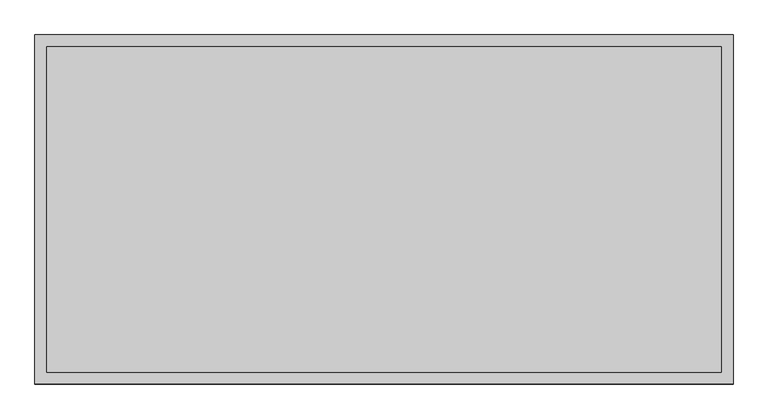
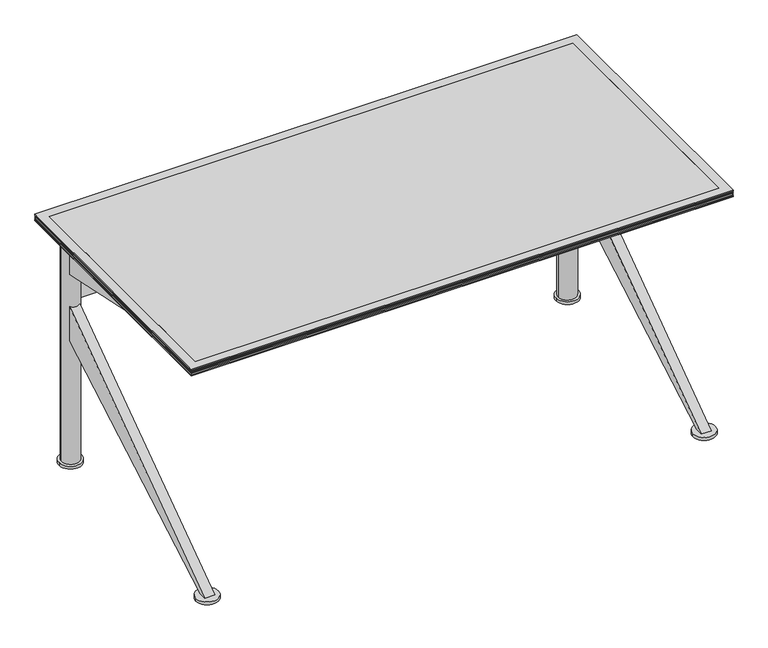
"""IFC4 building model written with IfcOpenShell, lengths in millimetres: furniture geometry, Coalesse_AM_Table_Conference_Ballet_Rectangular_KBase : Folding - 60L x 30W."""

from ifc_helpers import new_model, si_unit, point, frame, frame_2d, origin, origin_with_axes, place, context, project, spatial, polyline, circle_curve, trimmed, segment, composite_curve, outline, extrude, faceted_brep, source, transform, mapped, element, save
from ifc_brep_helpers import plane_surface, cylinder_surface, advanced_brep


def furniture_0b930614(model_context):
    return source(origin(), model_context, "Body", "SolidModel", [
        extrude(outline(composite_curve([segment(trimmed(circle_curve(frame_2d((-699.4092495, -349.25)), 25.4), [point((-724.8092495, -349.25))], [point((-674.0092495, -349.25))], False, "CARTESIAN"), True, "CONTINUOUS"), segment(trimmed(circle_curve(frame_2d((-699.4092495, -349.25)), 25.4), [point((-674.0092495, -349.25))], [point((-724.8092495, -349.25))], False, "CARTESIAN"), True, "CONTINUOUS")], self_intersect=False)), origin_with_axes(), (0.0, 0.0, 1.0), 4.2936144),
        extrude(outline(composite_curve([segment(trimmed(circle_curve(frame_2d((698.6624629, -349.25)), 25.4), [point((673.2624629, -349.25))], [point((724.0624629, -349.25))], False, "CARTESIAN"), True, "CONTINUOUS"), segment(trimmed(circle_curve(frame_2d((698.6624629, -349.25)), 25.4), [point((724.0624629, -349.25))], [point((673.2624629, -349.25))], False, "CARTESIAN"), True, "CONTINUOUS")], self_intersect=False)), origin_with_axes(), (0.0, 0.0, 1.0), 4.2936144),
        extrude(outline(composite_curve([segment(trimmed(circle_curve(frame_2d((698.6154995, 316.815286)), 25.4), [point((724.0154995, 316.815286))], [point((673.2154995, 316.815286))], False, "CARTESIAN"), True, "CONTINUOUS"), segment(trimmed(circle_curve(frame_2d((698.6154995, 316.815286)), 25.4), [point((673.2154995, 316.815286))], [point((724.0154995, 316.815286))], False, "CARTESIAN"), True, "CONTINUOUS")], self_intersect=False)), origin_with_axes(), (0.0, 0.0, 1.0), 4.2936144),
        extrude(outline(composite_curve([segment(trimmed(circle_curve(frame_2d((-699.4562129, 316.815286)), 25.4), [point((-674.0562129, 316.815286))], [point((-724.8562129, 316.815286))], False, "CARTESIAN"), True, "CONTINUOUS"), segment(trimmed(circle_curve(frame_2d((-699.4562129, 316.815286)), 25.4), [point((-724.8562129, 316.815286))], [point((-674.0562129, 316.815286))], False, "CARTESIAN"), True, "CONTINUOUS")], self_intersect=False)), origin_with_axes(), (0.0, 0.0, 1.0), 4.2936144),
        extrude(outline(composite_curve([segment(trimmed(circle_curve(frame_2d((698.6154995, 316.815286)), 31.75), [point((730.3654995, 316.815286))], [point((666.8654995, 316.815286))], False, "CARTESIAN"), True, "CONTINUOUS"), segment(trimmed(circle_curve(frame_2d((698.6154995, 316.815286)), 31.75), [point((666.8654995, 316.815286))], [point((730.3654995, 316.815286))], False, "CARTESIAN"), True, "CONTINUOUS")], self_intersect=False)), frame((0.0, 0.0, 4.2936144), z_axis=(0.0, 0.0, 1.0), x_axis=(1.0, 0.0, 0.0)), (0.0, 0.0, 1.0), 8.4063856),
        extrude(outline(composite_curve([segment(trimmed(circle_curve(frame_2d((-699.4562129, 316.815286)), 31.75), [point((-667.7062129, 316.815286))], [point((-731.2062129, 316.815286))], False, "CARTESIAN"), True, "CONTINUOUS"), segment(trimmed(circle_curve(frame_2d((-699.4562129, 316.815286)), 31.75), [point((-731.2062129, 316.815286))], [point((-667.7062129, 316.815286))], False, "CARTESIAN"), True, "CONTINUOUS")], self_intersect=False)), frame((0.0, 0.0, 4.2936144), z_axis=(0.0, 0.0, 1.0), x_axis=(1.0, 0.0, 0.0)), (0.0, 0.0, 1.0), 8.4063856),
        extrude(outline(polyline([(296.4656271, 577.7388634), (-269.874901, 698.5000242), (-238.124901, 698.5000242), (296.4656271, 641.3500242), (296.4656271, 577.7388634)])), frame((-712.8007845, 0.0, 0.0), z_axis=(1.0, 0.0, 0.0), x_axis=(0.0, 1.0, 0.0)), (0.0, 0.0, 1.0), 28.5877899),
        extrude(outline(polyline([(296.4656271, 381.0), (-338.1375951, 12.7), (-360.3624013, 12.7), (296.4656271, 482.7111245), (296.4656271, 381.0)])), frame((-712.8007845, 0.0, 0.0), z_axis=(1.0, 0.0, 0.0), x_axis=(0.0, 1.0, 0.0)), (0.0, 0.0, 1.0), 28.5877899),
        extrude(outline(polyline([(296.4656271, 577.7388634), (-269.874901, 698.5000242), (-238.124901, 698.5000242), (296.4656271, 641.3500242), (296.4656271, 577.7388634)])), frame((684.2121992, 0.0, 0.0), z_axis=(1.0, 0.0, 0.0), x_axis=(0.0, 1.0, 0.0)), (0.0, 0.0, 1.0), 28.575),
        extrude(outline(polyline([(296.4656271, 381.0), (-338.1375951, 12.7), (-360.3624013, 12.7), (296.4656271, 482.7111245), (296.4656271, 381.0)])), frame((684.2121992, 0.0, 0.0), z_axis=(1.0, 0.0, 0.0), x_axis=(0.0, 1.0, 0.0)), (0.0, 0.0, 1.0), 28.575),
        advanced_brep(
        [(676.5033169, 304.8000021, 568.3250121), (-676.5033169, 304.8000021, 568.3250121), (-676.5033169, 304.8000021, 492.1250121), (676.5033169, 304.8000021, 492.1250121), (-673.1003634, 317.5, 492.1250121), (-676.5032635, 330.1999052, 492.1250121), (676.5032635, 330.1999052, 492.1250121), (673.1003634, 317.5, 492.1250121), (-676.5032635, 330.1999052, 568.3250121), (676.5032635, 330.1999052, 568.3250121), (673.1003634, 317.5, 568.3250121), (-673.1003634, 317.5, 568.3250121), (-723.9003633, 317.5, 698.5000242), (-673.1003634, 317.5, 698.5000242), (673.1003634, 317.5, 698.5000242), (723.9003633, 317.5, 698.5000242), (-723.9003633, 317.5, 12.7), (-673.1003634, 317.5, 12.7), (673.1003634, 317.5, 12.7), (723.9003633, 317.5, 12.7)],
        [
            (0, 1),
            (1, 2),
            (2, 3),
            (3, 0),
            (2, 4, circle_curve(frame((-698.5003633, 317.5, 492.1250121), z_axis=(0.0, 0.0, 1.0), x_axis=(1.0, 0.0, 0.0)), 25.3999999)),
            (4, 5, circle_curve(frame((-698.5003633, 317.5, 492.1250121), z_axis=(0.0, 0.0, 1.0), x_axis=(1.0, 0.0, 0.0)), 25.3999999)),
            (5, 6),
            (6, 7, circle_curve(frame((698.5003633, 317.5, 492.1250121), z_axis=(0.0, 0.0, 1.0), x_axis=(1.0, 0.0, 0.0)), 25.3999999)),
            (7, 3, circle_curve(frame((698.5003633, 317.5, 492.1250121), z_axis=(0.0, 0.0, 1.0), x_axis=(1.0, 0.0, 0.0)), 25.3999999)),
            (5, 8),
            (8, 9),
            (9, 6),
            (0, 10, circle_curve(frame((698.5003633, 317.5, 568.3250121), z_axis=(0.0, 0.0, -1.0), x_axis=(1.0, 0.0, 0.0)), 25.3999999)),
            (10, 9, circle_curve(frame((698.5003633, 317.5, 568.3250121), z_axis=(0.0, 0.0, -1.0), x_axis=(1.0, 0.0, 0.0)), 25.3999999)),
            (8, 11, circle_curve(frame((-698.5003633, 317.5, 568.3250121), z_axis=(0.0, 0.0, -1.0), x_axis=(1.0, 0.0, 0.0)), 25.3999999)),
            (11, 1, circle_curve(frame((-698.5003633, 317.5, 568.3250121), z_axis=(0.0, 0.0, -1.0), x_axis=(1.0, 0.0, 0.0)), 25.3999999)),
            (12, 13, circle_curve(frame((-698.5003633, 317.5, 698.5000242), z_axis=(0.0, 0.0, 1.0), x_axis=(1.0, 0.0, 0.0)), 25.3999999)),
            (13, 12, circle_curve(frame((-698.5003633, 317.5, 698.5000242), z_axis=(0.0, 0.0, 1.0), x_axis=(1.0, 0.0, 0.0)), 25.3999999)),
            (14, 15, circle_curve(frame((698.5003633, 317.5, 698.5000242), z_axis=(0.0, 0.0, 1.0), x_axis=(1.0, 0.0, 0.0)), 25.3999999)),
            (15, 14, circle_curve(frame((698.5003633, 317.5, 698.5000242), z_axis=(0.0, 0.0, 1.0), x_axis=(1.0, 0.0, 0.0)), 25.3999999)),
            (16, 17, circle_curve(frame((-698.5003633, 317.5, 12.7), z_axis=(0.0, 0.0, -1.0), x_axis=(1.0, 0.0, 0.0)), 25.3999999)),
            (17, 16, circle_curve(frame((-698.5003633, 317.5, 12.7), z_axis=(0.0, 0.0, -1.0), x_axis=(1.0, 0.0, 0.0)), 25.3999999)),
            (18, 19, circle_curve(frame((698.5003633, 317.5, 12.7), z_axis=(0.0, 0.0, -1.0), x_axis=(1.0, 0.0, 0.0)), 25.3999999)),
            (19, 18, circle_curve(frame((698.5003633, 317.5, 12.7), z_axis=(0.0, 0.0, -1.0), x_axis=(1.0, 0.0, 0.0)), 25.3999999)),
            (12, 16),
            (17, 4),
            (11, 13),
            (14, 10),
            (7, 18),
            (19, 15),
        ],
        [
            plane_surface(frame((684.2121992, 304.8000021, 568.3250121), z_axis=(0.0, -1.0, 0.0), x_axis=(-1.0, 0.0, 0.0))),
            plane_surface(frame((684.2121992, 304.8000021, 492.1250121), z_axis=(0.0, 0.0, -1.0), x_axis=(-1.0, 0.0, 0.0))),
            plane_surface(frame((684.2121992, 330.1999052, 492.1250121), z_axis=(0.0, 1.0, 0.0), x_axis=(-1.0, 0.0, 0.0))),
            plane_surface(frame((684.2121992, 330.1999052, 568.3250121), z_axis=(0.0, 0.0, 1.0), x_axis=(-1.0, 0.0, 0.0))),
            plane_surface(frame((-673.1003634, 317.5, 698.5000242), z_axis=(0.0, 0.0, 1.0), x_axis=(0.0, 1.0, 0.0))),
            plane_surface(frame((-673.1003634, 317.5, 12.7), z_axis=(0.0, 0.0, -1.0), x_axis=(0.0, -1.0, 0.0))),
            cylinder_surface(frame((-698.5003633, 317.5, 12.7), z_axis=(0.0, 0.0, 1.0), x_axis=(1.0, 0.0, 0.0)), 25.3999999),
            cylinder_surface(frame((698.5003633, 317.5, 0.0), z_axis=(0.0, 0.0, 1.0), x_axis=(1.0, 0.0, 0.0)), 25.3999999),
        ],
        [
            (0, [[1, 2, 3, 4]]),
            (1, [[-3, 5, 6, 7, 8, 9]]),
            (2, [[-7, 10, 11, 12]]),
            (3, [[-1, 13, 14, -11, 15, 16]]),
            (4, [[17, 18]]),
            (4, [[19, 20]]),
            (5, [[21, 22]]),
            (5, [[23, 24]]),
            (6, [[-17, 25, -22, 26, -5, -2, -16, 27]]),
            (6, [[-18, -27, -15, -10, -6, -26, -21, -25]]),
            (7, [[-19, 28, -13, -4, -9, 29, -24, 30]]),
            (7, [[-20, -30, -23, -29, -8, -12, -14, -28]]),
        ],
    ),
        extrude(outline(composite_curve([segment(trimmed(circle_curve(frame_2d((-699.4092495, -349.25)), 31.75), [point((-731.1592495, -349.25))], [point((-667.6592495, -349.25))], False, "CARTESIAN"), True, "CONTINUOUS"), segment(trimmed(circle_curve(frame_2d((-699.4092495, -349.25)), 31.75), [point((-667.6592495, -349.25))], [point((-731.1592495, -349.25))], False, "CARTESIAN"), True, "CONTINUOUS")], self_intersect=False)), frame((0.0, 0.0, 4.2936144), z_axis=(0.0, 0.0, 1.0), x_axis=(1.0, 0.0, 0.0)), (0.0, 0.0, 1.0), 8.4063856),
        extrude(outline(composite_curve([segment(trimmed(circle_curve(frame_2d((698.6624629, -349.25)), 31.75), [point((666.9124629, -349.25))], [point((730.4124629, -349.25))], False, "CARTESIAN"), True, "CONTINUOUS"), segment(trimmed(circle_curve(frame_2d((698.6624629, -349.25)), 31.75), [point((730.4124629, -349.25))], [point((666.9124629, -349.25))], False, "CARTESIAN"), True, "CONTINUOUS")], self_intersect=False)), frame((0.0, 0.0, 4.2936144), z_axis=(0.0, 0.0, 1.0), x_axis=(1.0, 0.0, 0.0)), (0.0, 0.0, 1.0), 8.4063856),
        faceted_brep([(-762.0003633, 381.0, 704.85), (-736.6003876, 355.6000242, 698.5000242), (-736.6003876, -355.5999516, 698.5000242), (-762.0003633, -380.9999273, 704.85), (-762.0003633, 381.0, 708.0250242), (-762.0003633, -380.9999273, 708.0250242), (-758.8253755, 377.8250121, 709.6125), (-758.8253755, -377.8249394, 709.6125), (-762.0003633, 381.0, 711.1999758), (-762.0003633, -380.9999273, 711.1999758), (-758.8253755, 377.8250121, 712.7875242), (-758.8253755, -377.8249394, 712.7875242), (-762.0003633, 381.0, 714.375), (-762.0003633, -380.9999273, 714.375), (-758.8253755, 377.8250121, 715.9624758), (-758.8253755, -377.8249394, 715.9624758), (-762.0003633, 381.0, 717.5500242), (-762.0003633, -380.9999273, 717.5500242), (-758.8253755, 377.8250121, 719.1375), (-758.8253755, -377.8249394, 719.1375), (-762.0003633, 381.0, 720.7249758), (-762.0003633, -380.9999273, 720.7249758), (-762.0003633, 381.0, 723.9), (-762.0003633, -380.9999273, 723.9), (-736.6003876, 355.6000242, 723.9), (-736.6003876, -355.5999516, 723.9), (736.5998062, -355.5999516, 698.5000242), (761.999782, -380.9999273, 704.85), (761.999782, -380.9999273, 708.0250242), (758.8247941, -377.8249394, 709.6125), (761.999782, -380.9999273, 711.1999758), (758.8247941, -377.8249394, 712.7875242), (761.999782, -380.9999273, 714.375), (758.8247941, -377.8249394, 715.9624758), (761.999782, -380.9999273, 717.5500242), (758.8247941, -377.8249394, 719.1375), (761.999782, -380.9999273, 720.7249758), (761.999782, -380.9999273, 723.9), (736.5998062, -355.5999516, 723.9), (736.5998062, 355.6000242, 698.5000242), (761.999782, 381.0, 704.85), (761.999782, 381.0, 708.0250242), (758.8247941, 377.8250121, 709.6125), (761.999782, 381.0, 711.1999758), (758.8247941, 377.8250121, 712.7875242), (761.999782, 381.0, 714.375), (758.8247941, 377.8250121, 715.9624758), (761.999782, 381.0, 717.5500242), (758.8247941, 377.8250121, 719.1375), (761.999782, 381.0, 720.7249758), (761.999782, 381.0, 723.9), (736.5998062, 355.6000242, 723.9)], [[[0, 1, 2, 3]], [[4, 0, 3, 5]], [[6, 4, 5, 7]], [[8, 6, 7, 9]], [[10, 8, 9, 11]], [[12, 10, 11, 13]], [[14, 12, 13, 15]], [[16, 14, 15, 17]], [[18, 16, 17, 19]], [[20, 18, 19, 21]], [[22, 20, 21, 23]], [[1, 24, 25, 2]], [[3, 2, 26, 27]], [[5, 3, 27, 28]], [[7, 5, 28, 29]], [[9, 7, 29, 30]], [[11, 9, 30, 31]], [[13, 11, 31, 32]], [[15, 13, 32, 33]], [[17, 15, 33, 34]], [[19, 17, 34, 35]], [[21, 19, 35, 36]], [[23, 21, 36, 37]], [[2, 25, 38, 26]], [[27, 26, 39, 40]], [[28, 27, 40, 41]], [[29, 28, 41, 42]], [[30, 29, 42, 43]], [[31, 30, 43, 44]], [[32, 31, 44, 45]], [[33, 32, 45, 46]], [[34, 33, 46, 47]], [[35, 34, 47, 48]], [[36, 35, 48, 49]], [[37, 36, 49, 50]], [[26, 38, 51, 39]], [[40, 39, 1, 0]], [[41, 40, 0, 4]], [[42, 41, 4, 6]], [[43, 42, 6, 8]], [[44, 43, 8, 10]], [[45, 44, 10, 12]], [[46, 45, 12, 14]], [[47, 46, 14, 16]], [[48, 47, 16, 18]], [[49, 48, 18, 20]], [[50, 49, 20, 22]], [[23, 37, 50, 22], [24, 51, 38, 25]], [[39, 51, 24, 1]]]),
        extrude(outline(polyline([(736.5998062, 355.6000242), (736.5998062, -355.5999516), (-736.6003876, -355.5999516), (-736.6003876, 355.6000242), (736.5998062, 355.6000242)])), frame((0.0, 0.0, 704.85), z_axis=(0.0, 0.0, 1.0), x_axis=(1.0, 0.0, 0.0)), (0.0, 0.0, 1.0), 19.05),
    ])


if __name__ == "__main__":
    model = new_model("IFC4")
    model_context = context("Model", 3, world=origin())
    ifc_project = project(units=[si_unit("LENGTHUNIT", "METRE", prefix="MILLI")], contexts=[model_context])
    site = spatial("IfcSite", under=ifc_project)
    building = spatial("IfcBuilding", under=site)
    placement = place(None, origin())
    furniture_shape = furniture_0b930614(model_context)
    element("IfcFurniture", 1, ObjectType="Coalesse_AM_Table_Conference_Ballet_Rectangular_KBase : Folding - 60L x 30W", at=placement, inside=building, context=model_context, shape_type="MappedRepresentation", body=[
        mapped(furniture_shape, transform((0.0, 0.0, 0.0), x_axis=(1.0, 0.0, 0.0), y_axis=(0.0, 1.0, 0.0), z_axis=(0.0, 0.0, 1.0))),
    ])
    save(model, "model.ifc")
